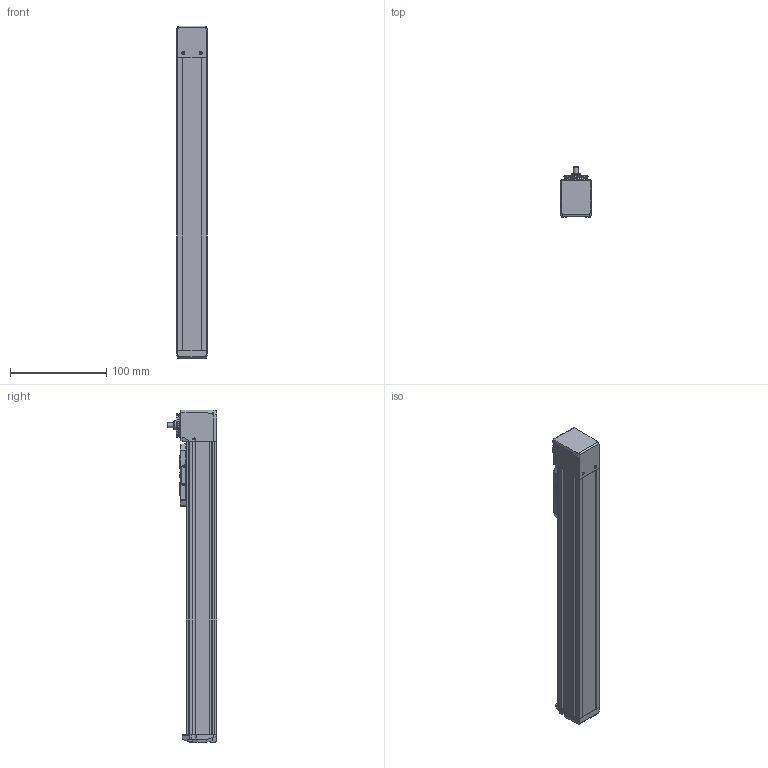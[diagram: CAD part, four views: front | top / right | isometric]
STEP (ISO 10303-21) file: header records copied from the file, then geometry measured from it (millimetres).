
FILE_DESCRIPTION(/* description */ ('STEP AP214'),/* implementation_level */ '2;1');
FILE_NAME(/* name */ 'MGTB 32 200(0)',/* time_stamp */ '2023-04-17T13:33:25+02:00',/* author */ ('License CC BY-ND 4.0'),/* organization */ ('CADENAS'),/* preprocessor_version */ 'ST-DEVELOPER v19.3',/* originating_system */ 'PARTsolutions',/* authorisation */ ' ');
FILE_SCHEMA (('AUTOMOTIVE_DESIGN {1 0 10303 214 3 1 1}'));
Length unit declared in the file: millimetre
Products named in the file (6): MGTB 32 200(0); MGTB 32 200_protection_strip; MGTB 32_carriage; MGTB 32_end_block; MGTB 32 200_profile; MGTB 32_drive_block
Assembly tree (5 placements, depth 2):
  MGTB 32 200(0)
    MGTB 32 200_protection_strip
    MGTB 32_carriage
    MGTB 32_end_block
    MGTB 32 200_profile
    MGTB 32_drive_block
Bounding box: 32 x 51.75 x 344.75 mm (x, y, z)
Volume: 340657.6 mm3; surface area: 85637.6 mm2
Topology: 5 solids, 5 shells, 664 faces, 1755 edges, 1129 vertices
Faces by surface type: plane 316, cylinder 171, cone 90, bspline 60, torus 25, sphere 2
Full cylindrical faces by diameter (mm): 1.155 x1, 1.567 x4, 1.755 x4, 1.8 x2, 2 x2, 2.3 x4, 2.459 x8, 2.46 x4, 2.5 x11, 3 x1, 3.8 x4, 4.5 x4, 5 x3, 7 x1, 7.5 x1, 9.6 x1, 19.5 x1, 25 x2
Entity records: 24513 total; most frequent: CARTESIAN_POINT 4239, DIRECTION 3359, ORIENTED_EDGE 3170, EDGE_CURVE 1585, AXIS2_PLACEMENT_3D 1204, VERTEX_POINT 1116, LINE 951, VECTOR 951
